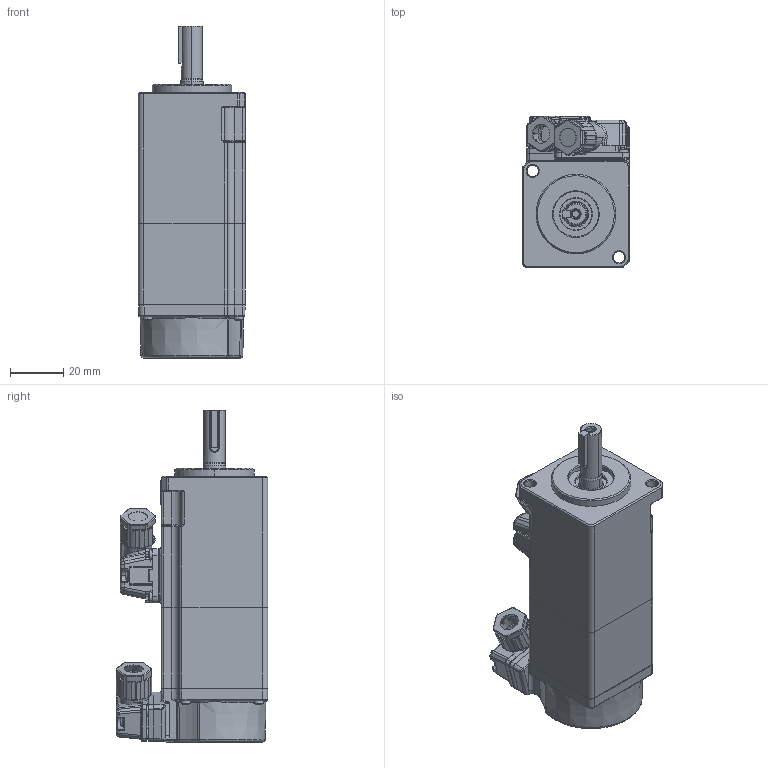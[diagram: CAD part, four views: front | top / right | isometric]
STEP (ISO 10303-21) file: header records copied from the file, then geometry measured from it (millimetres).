
FILE_DESCRIPTION (( 'STEP AP214' ), '1' );
FILE_NAME ('40x40-100W无油封伺服电机带制动器_通用外形图_A0.STEP', '2023-09-15T00:55:14', ( '' ), ( '' ), 'SwSTEP 2.0', 'SolidWorks 2020', '' );
FILE_SCHEMA (( 'AUTOMOTIVE_DESIGN' ));
Length unit declared in the file: millimetre
Products named in the file (1): 40x40-100W无油封伺服电机带制动器_通用外形图_A0
Bounding box: 40.4 x 57.25 x 125.1 mm (x, y, z)
Surface area: 25369.8 mm2 (no closed solid volume)
Topology: 0 solids, 29 shells, 1286 faces, 4545 edges, 3109 vertices
Faces by surface type: plane 473, cylinder 410, bspline 172, torus 143, cone 50, sphere 38
Entity records: 70218 total; most frequent: CARTESIAN_POINT 20048, ORIENTED_EDGE 7328, DIRECTION 6901, EDGE_CURVE 4529, VERTEX_POINT 3109, AXIS2_PLACEMENT_3D 2442, LINE 2017, VECTOR 2017
